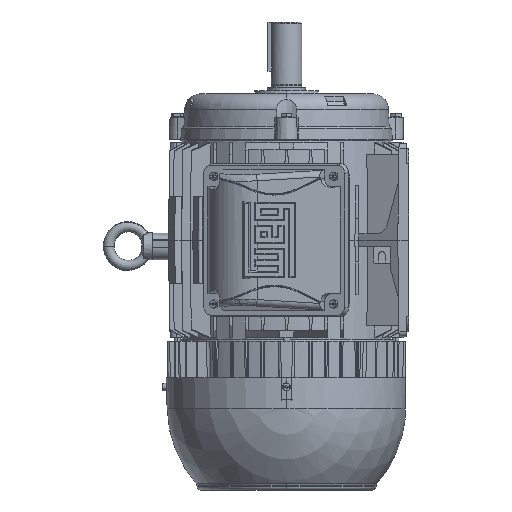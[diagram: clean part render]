
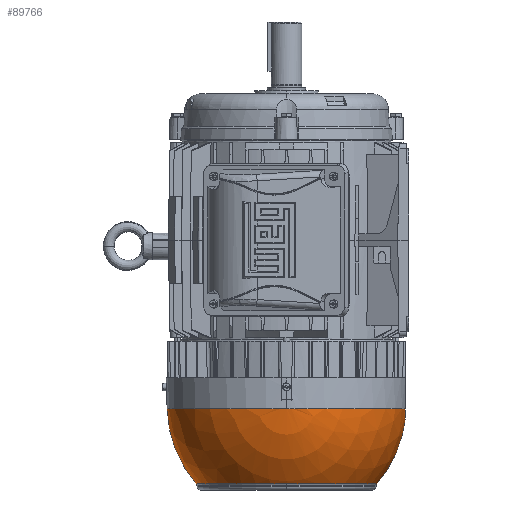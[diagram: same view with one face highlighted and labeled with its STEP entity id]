
A CAD part, left-side view. The second image highlights one B-rep face of the part: STEP entity #89766.
In plain terms, the highlighted spherical face has radius 109.545 mm.
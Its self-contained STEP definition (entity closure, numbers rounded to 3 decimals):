
#278 = EDGE_CURVE ( 'NONE', #38286, #43839, #13034, .T. ) ;
#1398 = VERTEX_POINT ( 'NONE', #78215 ) ;
#1757 = EDGE_CURVE ( 'NONE', #10160, #32782, #58195, .T. ) ;
#1842 = CARTESIAN_POINT ( 'NONE',  ( 0., -108.945, -151.55 ) ) ;
#1870 = CARTESIAN_POINT ( 'NONE',  ( 0., -82.833, -223.234 ) ) ;
#2946 = CARTESIAN_POINT ( 'NONE',  ( 0., 109.507, -154.418 ) ) ;
#3560 = EDGE_LOOP ( 'NONE', ( #31070, #40001, #10119, #66656, #64139, #13281, #16303 ) ) ;
#4873 = CIRCLE ( 'NONE', #63833, 109.545 ) ;
#10119 = ORIENTED_EDGE ( 'NONE', *, *, #77029, .T. ) ;
#10160 = VERTEX_POINT ( 'NONE', #94913 ) ;
#12635 = DIRECTION ( 'NONE',  ( 0., 0., -1. ) ) ;
#12736 = SPHERICAL_SURFACE ( 'NONE', #17819, 109.545 ) ;
#13034 = CIRCLE ( 'NONE', #15126, 11.444 ) ;
#13281 = ORIENTED_EDGE ( 'NONE', *, *, #57230, .F. ) ;
#14589 = CIRCLE ( 'NONE', #25095, 82.833 ) ;
#15126 = AXIS2_PLACEMENT_3D ( 'NONE', #1842, #18234, #70865 ) ;
#15645 = AXIS2_PLACEMENT_3D ( 'NONE', #54143, #76884, #46604 ) ;
#16303 = ORIENTED_EDGE ( 'NONE', *, *, #75227, .F. ) ;
#17819 = AXIS2_PLACEMENT_3D ( 'NONE', #71164, #32683, #70521 ) ;
#17860 = DIRECTION ( 'NONE',  ( 0., 1., 0. ) ) ;
#18234 = DIRECTION ( 'NONE',  ( 0., 1., 0. ) ) ;
#19502 = CARTESIAN_POINT ( 'NONE',  ( 0., 0., -223.234 ) ) ;
#22146 = FACE_OUTER_BOUND ( 'NONE', #3560, .T. ) ;
#23519 = CIRCLE ( 'NONE', #15645, 82.833 ) ;
#25095 = AXIS2_PLACEMENT_3D ( 'NONE', #19502, #12635, #57654 ) ;
#26193 = CARTESIAN_POINT ( 'NONE',  ( 0., 0., -154.418 ) ) ;
#31070 = ORIENTED_EDGE ( 'NONE', *, *, #60655, .F. ) ;
#32683 = DIRECTION ( 'NONE',  ( 1., 0., 0. ) ) ;
#32782 = VERTEX_POINT ( 'NONE', #2946 ) ;
#33293 = DIRECTION ( 'NONE',  ( 1., 0., 0. ) ) ;
#38286 = VERTEX_POINT ( 'NONE', #53731 ) ;
#39864 = VERTEX_POINT ( 'NONE', #1870 ) ;
#40001 = ORIENTED_EDGE ( 'NONE', *, *, #278, .T. ) ;
#41681 = DIRECTION ( 'NONE',  ( -1., 0., 0. ) ) ;
#42218 = CARTESIAN_POINT ( 'NONE',  ( 0., 0., -154.418 ) ) ;
#43367 = DIRECTION ( 'NONE',  ( 0., 0., 1. ) ) ;
#43839 = VERTEX_POINT ( 'NONE', #66109 ) ;
#46604 = DIRECTION ( 'NONE',  ( -1., 0., 0. ) ) ;
#51595 = CARTESIAN_POINT ( 'NONE',  ( 0., 0., -151.55 ) ) ;
#53731 = CARTESIAN_POINT ( 'NONE',  ( 0., -108.945, -162.994 ) ) ;
#54143 = CARTESIAN_POINT ( 'NONE',  ( 0., 0., -223.234 ) ) ;
#57230 = EDGE_CURVE ( 'NONE', #96291, #1398, #14589, .T. ) ;
#57654 = DIRECTION ( 'NONE',  ( -1., 0., 0. ) ) ;
#58195 = CIRCLE ( 'NONE', #84588, 109.507 ) ;
#58521 = CIRCLE ( 'NONE', #73817, 109.545 ) ;
#60655 = EDGE_CURVE ( 'NONE', #38286, #39864, #58521, .T. ) ;
#63522 = CARTESIAN_POINT ( 'NONE',  ( 0., 0., -151.55 ) ) ;
#63833 = AXIS2_PLACEMENT_3D ( 'NONE', #51595, #73628, #43367 ) ;
#64139 = ORIENTED_EDGE ( 'NONE', *, *, #83141, .T. ) ;
#64342 = DIRECTION ( 'NONE',  ( 0., 0., -1. ) ) ;
#66109 = CARTESIAN_POINT ( 'NONE',  ( -11.079, -108.945, -154.418 ) ) ;
#66656 = ORIENTED_EDGE ( 'NONE', *, *, #1757, .T. ) ;
#68597 = CARTESIAN_POINT ( 'NONE',  ( -82.833, 0., -223.234 ) ) ;
#70521 = DIRECTION ( 'NONE',  ( 0., 1., 0. ) ) ;
#70865 = DIRECTION ( 'NONE',  ( -1., 0., 0. ) ) ;
#71164 = CARTESIAN_POINT ( 'NONE',  ( 0., 0., -151.55 ) ) ;
#72798 = DIRECTION ( 'NONE',  ( -1., 0., 0. ) ) ;
#73628 = DIRECTION ( 'NONE',  ( -1., 0., 0. ) ) ;
#73817 = AXIS2_PLACEMENT_3D ( 'NONE', #63522, #33293, #17860 ) ;
#75227 = EDGE_CURVE ( 'NONE', #39864, #96291, #23519, .T. ) ;
#76884 = DIRECTION ( 'NONE',  ( 0., 0., -1. ) ) ;
#77029 = EDGE_CURVE ( 'NONE', #43839, #10160, #93908, .T. ) ;
#78215 = CARTESIAN_POINT ( 'NONE',  ( 0., 82.833, -223.234 ) ) ;
#83141 = EDGE_CURVE ( 'NONE', #32782, #1398, #4873, .T. ) ;
#84588 = AXIS2_PLACEMENT_3D ( 'NONE', #42218, #94918, #72798 ) ;
#89766 = ADVANCED_FACE ( 'NONE', ( #22146 ), #12736, .T. ) ;
#93886 = AXIS2_PLACEMENT_3D ( 'NONE', #26193, #64342, #41681 ) ;
#93908 = CIRCLE ( 'NONE', #93886, 109.507 ) ;
#94913 = CARTESIAN_POINT ( 'NONE',  ( -109.507, 0., -154.418 ) ) ;
#94918 = DIRECTION ( 'NONE',  ( 0., 0., -1. ) ) ;
#96291 = VERTEX_POINT ( 'NONE', #68597 ) ;
